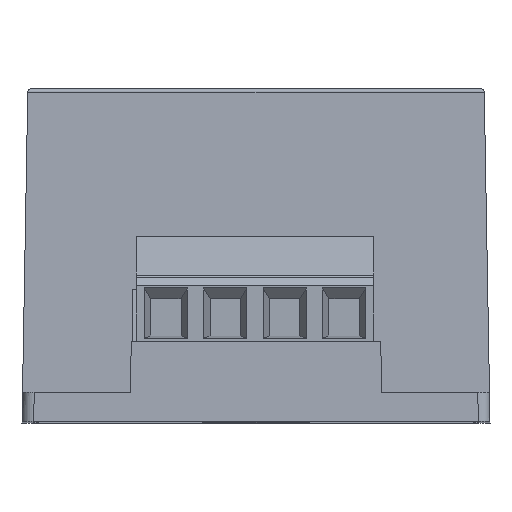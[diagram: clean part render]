
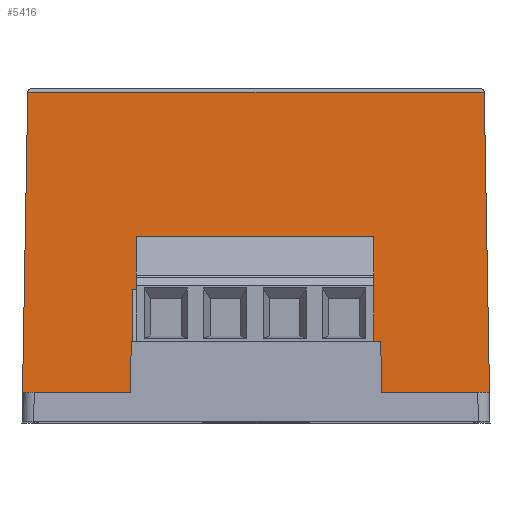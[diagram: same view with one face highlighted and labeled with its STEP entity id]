
A CAD part, top view. The second image highlights one B-rep face of the part: STEP entity #5416.
In plain terms, the highlighted planar face has unit normal (0, 0.018, 1) as drawn and (1, -0.017, 0) by its records, which use the part's own axes.
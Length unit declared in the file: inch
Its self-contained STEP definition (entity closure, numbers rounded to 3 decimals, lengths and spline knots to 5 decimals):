
#182 = VERTEX_POINT ( 'NONE', #4536 ) ;
#527 = DIRECTION ( 'NONE',  ( 0., 0., 1. ) ) ;
#649 = ORIENTED_EDGE ( 'NONE', *, *, #24677, .T. ) ;
#805 = EDGE_LOOP ( 'NONE', ( #15627, #24491, #23600, #21559, #16657, #26037, #18502, #649 ) ) ;
#1766 = VERTEX_POINT ( 'NONE', #8750 ) ;
#1780 = CARTESIAN_POINT ( 'NONE',  ( 1.53372, -0.09843, 0. ) ) ;
#2076 = CARTESIAN_POINT ( 'NONE',  ( 1.51608, -1.10847, 0. ) ) ;
#2428 = DIRECTION ( 'NONE',  ( -0.017, -1., 0.017 ) ) ;
#2541 = CARTESIAN_POINT ( 'NONE',  ( 1.53372, -0.09843, -0.78568 ) ) ;
#2597 = EDGE_CURVE ( 'NONE', #21826, #23809, #15583, .T. ) ;
#3042 = FACE_OUTER_BOUND ( 'NONE', #805, .T. ) ;
#3720 = VECTOR ( 'NONE', #2428, 39.37008 ) ;
#4131 = DIRECTION ( 'NONE',  ( -0.017, -1., 0.017 ) ) ;
#4536 = CARTESIAN_POINT ( 'NONE',  ( 1.53372, -0.09843, 0.78568 ) ) ;
#4576 = CARTESIAN_POINT ( 'NONE',  ( 1.53076, -0.26772, 0. ) ) ;
#4961 = DIRECTION ( 'NONE',  ( 1., -0.017, 0. ) ) ;
#5095 = DIRECTION ( 'NONE',  ( 0.017, 1., 0.017 ) ) ;
#5416 = ADVANCED_FACE ( 'NONE', ( #3042 ), #17354, .T. ) ;
#5602 = DIRECTION ( 'NONE',  ( 0.017, 1., 0.017 ) ) ;
#6025 = CARTESIAN_POINT ( 'NONE',  ( 1.53372, -0.09843, -0.42269 ) ) ;
#7979 = DIRECTION ( 'NONE',  ( 0., 0., 1. ) ) ;
#8365 = VERTEX_POINT ( 'NONE', #12505 ) ;
#8594 = VECTOR ( 'NONE', #5095, 39.37008 ) ;
#8750 = CARTESIAN_POINT ( 'NONE',  ( 1.51608, -1.10847, -0.76805 ) ) ;
#8887 = VECTOR ( 'NONE', #4131, 39.37008 ) ;
#8999 = CARTESIAN_POINT ( 'NONE',  ( 1.51608, -1.10847, -0.78568 ) ) ;
#9690 = VERTEX_POINT ( 'NONE', #2541 ) ;
#9844 = LINE ( 'NONE', #10611, #3720 ) ;
#10611 = CARTESIAN_POINT ( 'NONE',  ( 1.53372, -0.09843, -0.78568 ) ) ;
#10616 = LINE ( 'NONE', #4576, #20382 ) ;
#11673 = LINE ( 'NONE', #2076, #22092 ) ;
#12108 = CARTESIAN_POINT ( 'NONE',  ( 1.53372, -0.09843, -0.42269 ) ) ;
#12308 = EDGE_CURVE ( 'NONE', #9690, #16593, #18063, .T. ) ;
#12505 = CARTESIAN_POINT ( 'NONE',  ( 1.51608, -1.10847, 0.76805 ) ) ;
#13400 = EDGE_CURVE ( 'NONE', #16593, #14785, #24161, .T. ) ;
#14785 = VERTEX_POINT ( 'NONE', #17609 ) ;
#15583 = LINE ( 'NONE', #19920, #25953 ) ;
#15591 = EDGE_CURVE ( 'NONE', #14785, #21826, #10616, .T. ) ;
#15627 = ORIENTED_EDGE ( 'NONE', *, *, #18302, .F. ) ;
#16018 = CARTESIAN_POINT ( 'NONE',  ( 1.53372, -0.09843, 0. ) ) ;
#16593 = VERTEX_POINT ( 'NONE', #12108 ) ;
#16611 = LINE ( 'NONE', #1780, #21515 ) ;
#16657 = ORIENTED_EDGE ( 'NONE', *, *, #2597, .T. ) ;
#17354 = PLANE ( 'NONE',  #22176 ) ;
#17609 = CARTESIAN_POINT ( 'NONE',  ( 1.53076, -0.26772, -0.41974 ) ) ;
#18063 = LINE ( 'NONE', #16018, #18698 ) ;
#18111 = DIRECTION ( 'NONE',  ( 0., 0., 1. ) ) ;
#18302 = EDGE_CURVE ( 'NONE', #9690, #1766, #9844, .T. ) ;
#18502 = ORIENTED_EDGE ( 'NONE', *, *, #22547, .F. ) ;
#18698 = VECTOR ( 'NONE', #18111, 39.37008 ) ;
#18715 = EDGE_CURVE ( 'NONE', #23809, #182, #16611, .T. ) ;
#19240 = CARTESIAN_POINT ( 'NONE',  ( 1.53076, -0.26772, 0.41974 ) ) ;
#19576 = CARTESIAN_POINT ( 'NONE',  ( 1.51608, -1.10847, 0.76805 ) ) ;
#19621 = LINE ( 'NONE', #19576, #8594 ) ;
#19920 = CARTESIAN_POINT ( 'NONE',  ( 1.53076, -0.26772, 0.41974 ) ) ;
#20382 = VECTOR ( 'NONE', #527, 39.37008 ) ;
#20794 = DIRECTION ( 'NONE',  ( 0., 0., -1. ) ) ;
#20837 = DIRECTION ( 'NONE',  ( 0.017, 1., 0. ) ) ;
#21515 = VECTOR ( 'NONE', #7979, 39.37008 ) ;
#21559 = ORIENTED_EDGE ( 'NONE', *, *, #15591, .T. ) ;
#21826 = VERTEX_POINT ( 'NONE', #19240 ) ;
#22092 = VECTOR ( 'NONE', #20794, 39.37008 ) ;
#22176 = AXIS2_PLACEMENT_3D ( 'NONE', #8999, #4961, #20837 ) ;
#22547 = EDGE_CURVE ( 'NONE', #8365, #182, #19621, .T. ) ;
#23600 = ORIENTED_EDGE ( 'NONE', *, *, #13400, .T. ) ;
#23809 = VERTEX_POINT ( 'NONE', #23957 ) ;
#23957 = CARTESIAN_POINT ( 'NONE',  ( 1.53372, -0.09843, 0.42269 ) ) ;
#24161 = LINE ( 'NONE', #6025, #8887 ) ;
#24491 = ORIENTED_EDGE ( 'NONE', *, *, #12308, .T. ) ;
#24677 = EDGE_CURVE ( 'NONE', #8365, #1766, #11673, .T. ) ;
#25953 = VECTOR ( 'NONE', #5602, 39.37008 ) ;
#26037 = ORIENTED_EDGE ( 'NONE', *, *, #18715, .T. ) ;
